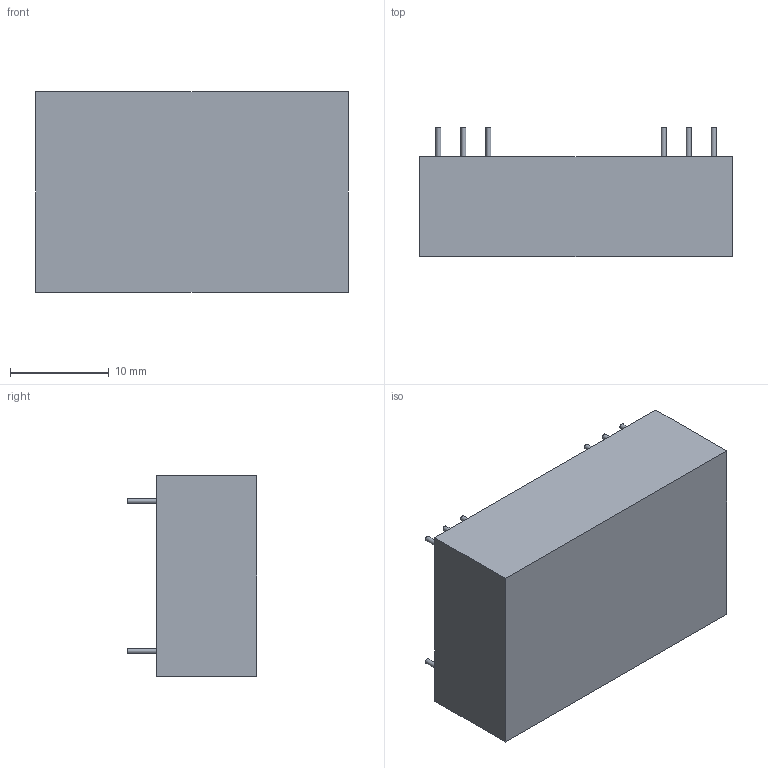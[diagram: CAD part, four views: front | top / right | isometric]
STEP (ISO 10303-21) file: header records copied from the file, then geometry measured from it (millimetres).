
FILE_DESCRIPTION(/* description */ ('Unknown'),/* implementation_level */ '2;1');
FILE_NAME(/* name */ 'JCB03(D)',/* time_stamp */ '2017-11-28T16:18:59+08:00',/* author */ ('Unknown'),/* organization */ ('Unknown'),/* preprocessor_version */ 'ST-DEVELOPER v16.7',/* originating_system */ 'DEX',/* authorisation */ $);
FILE_SCHEMA (('AUTOMOTIVE_DESIGN {1 0 10303 214 3 1 1}'));
Length unit declared in the file: millimetre
Products named in the file (1): JCB03(D)
Bounding box: 31.75 x 13.16 x 20.32 mm (x, y, z)
Volume: 6527.4 mm3; surface area: 2425.1 mm2
Topology: 1 solids, 1 shells, 59 faces, 96 edges, 64 vertices
Faces by surface type: plane 33, cylinder 26
Full cylindrical faces by diameter (mm): 0.5 x24
Entity records: 1292 total; most frequent: DIRECTION 244, CARTESIAN_POINT 196, ORIENTED_EDGE 144, AXIS2_PLACEMENT_3D 112, EDGE_LOOP 108, FACE_BOUND 108, EDGE_CURVE 72, VERTEX_POINT 64
